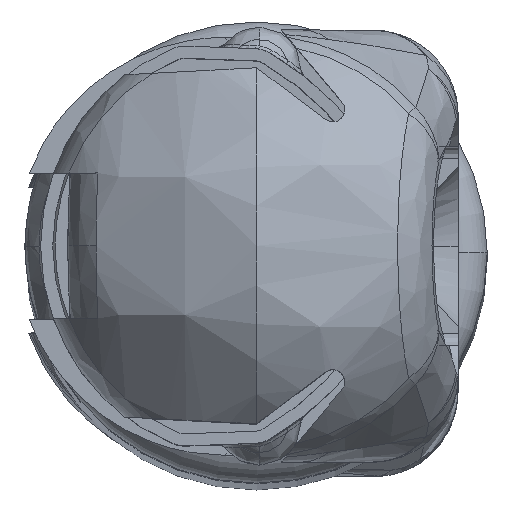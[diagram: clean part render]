
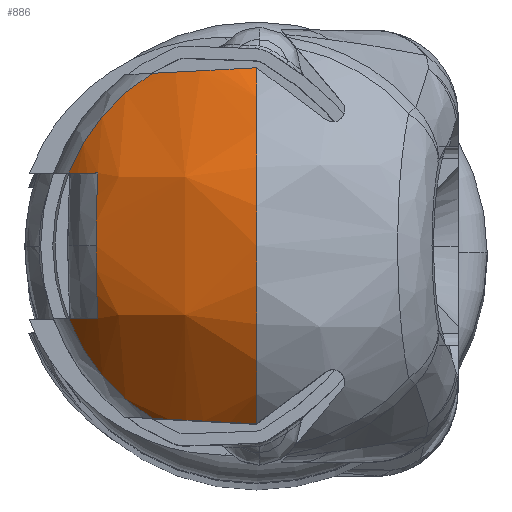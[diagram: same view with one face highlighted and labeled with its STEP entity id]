
A CAD part, top view. The second image highlights one B-rep face of the part: STEP entity #886.
In plain terms, the highlighted free-form (B-spline) face has degree [3, 3] with [4, 4] control points.
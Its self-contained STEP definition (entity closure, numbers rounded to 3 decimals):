
#736 = EDGE_CURVE ( 'NONE', #7723, #1037, #4730, .T. ) ;
#739 = EDGE_CURVE ( 'NONE', #6961, #4867, #4686, .T. ) ;
#886 = ADVANCED_FACE ( 'NONE', ( #7890 ), #8011, .T. ) ;
#1016 = VERTEX_POINT ( 'NONE', #12861 ) ;
#1037 = VERTEX_POINT ( 'NONE', #12840 ) ;
#4163 = EDGE_CURVE ( 'NONE', #4867, #4895, #7019, .T. ) ;
#4218 = EDGE_CURVE ( 'NONE', #4938, #7723, #9188, .T. ) ;
#4226 = EDGE_CURVE ( 'NONE', #1016, #4938, #9279, .T. ) ;
#4233 = EDGE_CURVE ( 'NONE', #4840, #1016, #9300, .T. ) ;
#4241 = EDGE_CURVE ( 'NONE', #4895, #4884, #9280, .T. ) ;
#4248 = EDGE_CURVE ( 'NONE', #4840, #6961, #7046, .T. ) ;
#4258 = EDGE_CURVE ( 'NONE', #4884, #1037, #9259, .T. ) ;
#4686 = CIRCLE ( 'NONE', #4702, 10. ) ;
#4702 = AXIS2_PLACEMENT_3D ( 'NONE', #18792, #18791, #18790 ) ;
#4730 = CIRCLE ( 'NONE', #4742, 8.157 ) ;
#4742 = AXIS2_PLACEMENT_3D ( 'NONE', #18801, #18800, #18799 ) ;
#4840 = VERTEX_POINT ( 'NONE', #11877 ) ;
#4867 = VERTEX_POINT ( 'NONE', #11850 ) ;
#4884 = VERTEX_POINT ( 'NONE', #11832 ) ;
#4895 = VERTEX_POINT ( 'NONE', #11817 ) ;
#4938 = VERTEX_POINT ( 'NONE', #11768 ) ;
#6961 = VERTEX_POINT ( 'NONE', #11704 ) ;
#7019 = B_SPLINE_CURVE_WITH_KNOTS ( 'NONE', 3,
 ( #17577, #17576, #17574, #17573, #17572, #17571 ),
 .UNSPECIFIED., .F., .F.,
 ( 4, 2, 4 ),
 ( 0., 0.002, 0.005 ),
 .UNSPECIFIED. ) ;
#7046 = B_SPLINE_CURVE_WITH_KNOTS ( 'NONE', 3,
 ( #17195, #17194, #17193, #17192, #17191, #17190 ),
 .UNSPECIFIED., .F., .F.,
 ( 4, 2, 4 ),
 ( 0., 0.002, 0.005 ),
 .UNSPECIFIED. ) ;
#7514 = EDGE_LOOP ( 'NONE', ( #9960, #10186, #10106, #9736, #9732, #9743, #9663, #9809, #9895 ) ) ;
#7723 = VERTEX_POINT ( 'NONE', #11625 ) ;
#7890 = FACE_OUTER_BOUND ( 'NONE', #7514, .T. ) ;
#8011 =( BOUNDED_SURFACE ( )  B_SPLINE_SURFACE ( 3, 3, ( 
 ( #13161, #13160, #13158, #13157 ),
 ( #13156, #13155, #13154, #13153 ),
 ( #13151, #13150, #13149, #13148 ),
 ( #13147, #13146, #13145, #13144 ) ),
 .UNSPECIFIED., .F., .F., .T. ) 
 B_SPLINE_SURFACE_WITH_KNOTS ( ( 4, 4 ),
 ( 4, 4 ),
 ( 0., 1. ),
 ( 0., 1. ),
 .UNSPECIFIED. ) 
 GEOMETRIC_REPRESENTATION_ITEM ( )  RATIONAL_B_SPLINE_SURFACE ( (
 ( 1., 0.926, 0.926, 1.),
 ( 0.782, 0.724, 0.724, 0.782),
 ( 0.782, 0.724, 0.724, 0.782),
 ( 1., 0.926, 0.926, 1.) ) ) 
 REPRESENTATION_ITEM ( '' )  SURFACE ( )  );
#9188 = CIRCLE ( 'NONE', #9290, 8.157 ) ;
#9259 = CIRCLE ( 'NONE', #9284, 9.539 ) ;
#9279 = CIRCLE ( 'NONE', #9302, 9.539 ) ;
#9280 = CIRCLE ( 'NONE', #9295, 8.308 ) ;
#9284 = AXIS2_PLACEMENT_3D ( 'NONE', #17162, #17161, #17160 ) ;
#9290 = AXIS2_PLACEMENT_3D ( 'NONE', #17337, #17336, #17335 ) ;
#9295 = AXIS2_PLACEMENT_3D ( 'NONE', #17235, #17234, #17233 ) ;
#9298 = AXIS2_PLACEMENT_3D ( 'NONE', #17263, #17262, #17261 ) ;
#9300 = CIRCLE ( 'NONE', #9298, 8.308 ) ;
#9302 = AXIS2_PLACEMENT_3D ( 'NONE', #17288, #17287, #17286 ) ;
#9663 = ORIENTED_EDGE ( 'NONE', *, *, #4258, .F. ) ;
#9732 = ORIENTED_EDGE ( 'NONE', *, *, #4218, .T. ) ;
#9736 = ORIENTED_EDGE ( 'NONE', *, *, #4226, .T. ) ;
#9743 = ORIENTED_EDGE ( 'NONE', *, *, #736, .T. ) ;
#9809 = ORIENTED_EDGE ( 'NONE', *, *, #4241, .F. ) ;
#9895 = ORIENTED_EDGE ( 'NONE', *, *, #4163, .F. ) ;
#9960 = ORIENTED_EDGE ( 'NONE', *, *, #739, .F. ) ;
#10106 = ORIENTED_EDGE ( 'NONE', *, *, #4233, .T. ) ;
#10186 = ORIENTED_EDGE ( 'NONE', *, *, #4248, .F. ) ;
#11625 = CARTESIAN_POINT ( 'NONE',  ( -9.008, 0., 6.606 ) ) ;
#11704 = CARTESIAN_POINT ( 'NONE',  ( -8.297, -7.335, 0. ) ) ;
#11768 = CARTESIAN_POINT ( 'NONE',  ( -8.439, -3., 6.546 ) ) ;
#11817 = CARTESIAN_POINT ( 'NONE',  ( -7.066, 7.11, 4.298 ) ) ;
#11832 = CARTESIAN_POINT ( 'NONE',  ( -7.066, 3., 7.747 ) ) ;
#11850 = CARTESIAN_POINT ( 'NONE',  ( -8.297, 7.335, 0. ) ) ;
#11877 = CARTESIAN_POINT ( 'NONE',  ( -7.066, -7.11, 4.298 ) ) ;
#12840 = CARTESIAN_POINT ( 'NONE',  ( -8.439, 3., 6.546 ) ) ;
#12861 = CARTESIAN_POINT ( 'NONE',  ( -7.066, -3., 7.747 ) ) ;
#13144 = CARTESIAN_POINT ( 'NONE',  ( -8.224, 7.402, 0. ) ) ;
#13145 = CARTESIAN_POINT ( 'NONE',  ( -8.224, 7.402, 2.222 ) ) ;
#13146 = CARTESIAN_POINT ( 'NONE',  ( -7.204, 7.402, 4.197 ) ) ;
#13147 = CARTESIAN_POINT ( 'NONE',  ( -5.392, 7.402, 5.483 ) ) ;
#13148 = CARTESIAN_POINT ( 'NONE',  ( -12.897, 3.157, 0. ) ) ;
#13149 = CARTESIAN_POINT ( 'NONE',  ( -12.897, 3.157, 3.767 ) ) ;
#13150 = CARTESIAN_POINT ( 'NONE',  ( -11.169, 3.157, 7.113 ) ) ;
#13151 = CARTESIAN_POINT ( 'NONE',  ( -8.097, 3.157, 9.293 ) ) ;
#13153 = CARTESIAN_POINT ( 'NONE',  ( -12.897, -3.157, 0. ) ) ;
#13154 = CARTESIAN_POINT ( 'NONE',  ( -12.897, -3.157, 3.767 ) ) ;
#13155 = CARTESIAN_POINT ( 'NONE',  ( -11.169, -3.157, 7.113 ) ) ;
#13156 = CARTESIAN_POINT ( 'NONE',  ( -8.097, -3.157, 9.293 ) ) ;
#13157 = CARTESIAN_POINT ( 'NONE',  ( -8.224, -7.402, 0. ) ) ;
#13158 = CARTESIAN_POINT ( 'NONE',  ( -8.224, -7.402, 2.222 ) ) ;
#13160 = CARTESIAN_POINT ( 'NONE',  ( -7.204, -7.402, 4.197 ) ) ;
#13161 = CARTESIAN_POINT ( 'NONE',  ( -5.392, -7.402, 5.483 ) ) ;
#17160 = DIRECTION ( 'NONE',  ( 1., 0., 0. ) ) ;
#17161 = DIRECTION ( 'NONE',  ( 0., -1., 0. ) ) ;
#17162 = CARTESIAN_POINT ( 'NONE',  ( -1.5, 3., 0. ) ) ;
#17190 = CARTESIAN_POINT ( 'NONE',  ( -8.297, -7.335, 0. ) ) ;
#17191 = CARTESIAN_POINT ( 'NONE',  ( -8.34, -7.295, 0.765 ) ) ;
#17192 = CARTESIAN_POINT ( 'NONE',  ( -8.256, -7.256, 1.517 ) ) ;
#17193 = CARTESIAN_POINT ( 'NONE',  ( -7.834, -7.178, 2.99 ) ) ;
#17194 = CARTESIAN_POINT ( 'NONE',  ( -7.508, -7.143, 3.671 ) ) ;
#17195 = CARTESIAN_POINT ( 'NONE',  ( -7.066, -7.11, 4.298 ) ) ;
#17233 = DIRECTION ( 'NONE',  ( 0., 0., -1. ) ) ;
#17234 = DIRECTION ( 'NONE',  ( 1., 0., 0. ) ) ;
#17235 = CARTESIAN_POINT ( 'NONE',  ( -7.066, 0., 0. ) ) ;
#17261 = DIRECTION ( 'NONE',  ( 0., 0., -1. ) ) ;
#17262 = DIRECTION ( 'NONE',  ( -1., 0., 0. ) ) ;
#17263 = CARTESIAN_POINT ( 'NONE',  ( -7.066, 0., 0. ) ) ;
#17286 = DIRECTION ( 'NONE',  ( 1., 0., 0. ) ) ;
#17287 = DIRECTION ( 'NONE',  ( 0., -1., 0. ) ) ;
#17288 = CARTESIAN_POINT ( 'NONE',  ( -1.5, -3., 0. ) ) ;
#17335 = DIRECTION ( 'NONE',  ( -0.995, 0., 0.105 ) ) ;
#17336 = DIRECTION ( 'NONE',  ( -0.105, 0., -0.995 ) ) ;
#17337 = CARTESIAN_POINT ( 'NONE',  ( -0.895, 0., 5.753 ) ) ;
#17571 = CARTESIAN_POINT ( 'NONE',  ( -7.066, 7.11, 4.298 ) ) ;
#17572 = CARTESIAN_POINT ( 'NONE',  ( -7.508, 7.143, 3.671 ) ) ;
#17573 = CARTESIAN_POINT ( 'NONE',  ( -7.835, 7.178, 2.989 ) ) ;
#17574 = CARTESIAN_POINT ( 'NONE',  ( -8.256, 7.256, 1.516 ) ) ;
#17576 = CARTESIAN_POINT ( 'NONE',  ( -8.34, 7.295, 0.765 ) ) ;
#17577 = CARTESIAN_POINT ( 'NONE',  ( -8.297, 7.335, 0. ) ) ;
#18790 = DIRECTION ( 'NONE',  ( 0., -1., 0. ) ) ;
#18791 = DIRECTION ( 'NONE',  ( 0., 0., -1. ) ) ;
#18792 = CARTESIAN_POINT ( 'NONE',  ( -1.5, 0., 0. ) ) ;
#18799 = DIRECTION ( 'NONE',  ( -0.995, 0., 0.105 ) ) ;
#18800 = DIRECTION ( 'NONE',  ( -0.105, 0., -0.995 ) ) ;
#18801 = CARTESIAN_POINT ( 'NONE',  ( -0.895, 0., 5.753 ) ) ;
